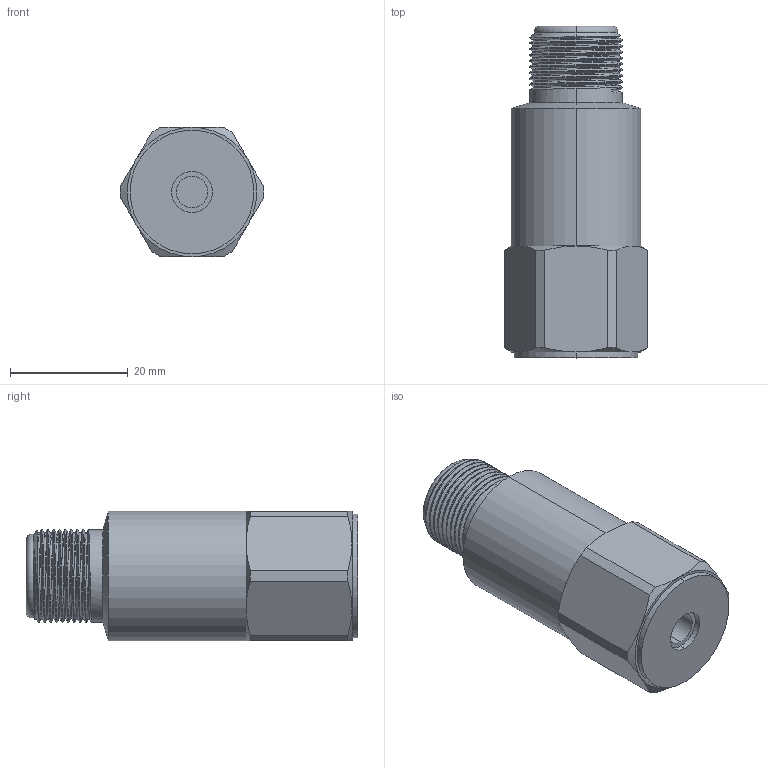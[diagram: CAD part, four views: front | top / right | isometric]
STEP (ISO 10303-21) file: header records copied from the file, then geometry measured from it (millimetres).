
FILE_DESCRIPTION (( 'STEP AP214' ), '1' );
FILE_NAME ('BVT1P92.STEP', '2026-03-31T07:31:53', ( '' ), ( '' ), 'SwSTEP 2.0', 'SolidWorks 2025', '' );
FILE_SCHEMA (( 'AUTOMOTIVE_DESIGN' ));
Length unit declared in the file: millimetre
Products named in the file (1): BVT1P92
Bounding box: 24.4 x 56.4 x 22 mm (x, y, z)
Volume: 17762.1 mm3; surface area: 5296.3 mm2
Topology: 1 solids, 1 shells, 71 faces, 173 edges, 108 vertices
Faces by surface type: cylinder 29, plane 21, cone 16, bspline 3, torus 2
Entity records: 3877 total; most frequent: CARTESIAN_POINT 2388, ORIENTED_EDGE 346, DIRECTION 261, EDGE_CURVE 173, VERTEX_POINT 108, AXIS2_PLACEMENT_3D 107, EDGE_LOOP 75, ADVANCED_FACE 71
